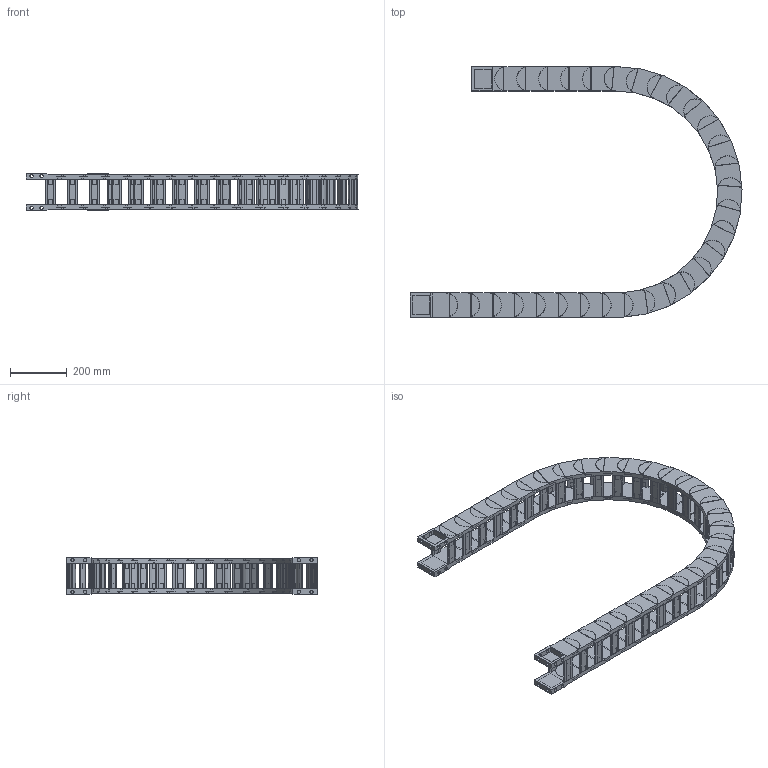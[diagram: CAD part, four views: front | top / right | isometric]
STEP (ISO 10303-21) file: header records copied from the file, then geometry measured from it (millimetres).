
FILE_DESCRIPTION((''),'2;1');
FILE_NAME('HD65-R400-ZPT_ASM','2022-06-18T10:55:49',('admin'),(''),'CREO PARAMETRIC BY PTC INC, 2021164','CREO PARAMETRIC BY PTC INC, 2021164','');
FILE_SCHEMA(('CONFIG_CONTROL_DESIGN','GEOMETRIC_VALIDATION_PROPERTIES_MIM'));
Length unit declared in the file: millimetre
Products named in the file (6): HD65; 65-50HDQSYP; HD65_ASM; H65-T1; H65-T2; HD65-R400-ZPT_ASM
Assembly tree (35 placements, depth 3):
  HD65-R400-ZPT_ASM
    HD65_ASM  x29
      HD65
      65-50HDQSYP
    H65-T1
    H65-T2
    65-50HDQSYP  x2
Bounding box: 1173.19 x 885.73 x 130.2 mm (x, y, z)
Volume: 8570211.1 mm3; surface area: 2566512 mm2
Topology: 124 solids, 124 shells, 2276 faces, 5998 edges, 4098 vertices
Faces by surface type: plane 1752, cylinder 524
Entity records: 9004 total; most frequent: CARTESIAN_POINT 1346, DIRECTION 1314, ORIENTED_EDGE 1212, EDGE_CURVE 606, AXIS2_PLACEMENT_3D 445, VECTOR 424, LINE 424, VERTEX_POINT 410
